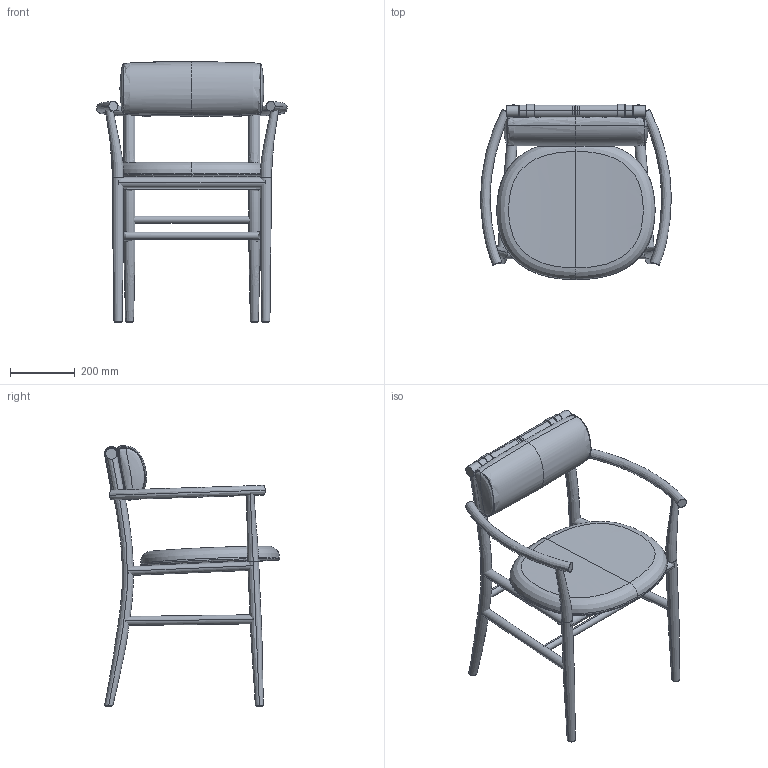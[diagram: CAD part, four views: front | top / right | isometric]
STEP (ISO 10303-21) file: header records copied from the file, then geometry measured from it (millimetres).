
FILE_DESCRIPTION(/* description */ (''),/* implementation_level */ '2;1');
FILE_NAME(/* name */ 'Nama Dining Chair Armrest',/* time_stamp */ '2025-08-27T09:54:53+02:00',/* author */ (''),/* organization */ (''),/* preprocessor_version */ 'ST-DEVELOPER v16.5',/* originating_system */ 'Rhino 7.38',/* authorisation */ '');
FILE_SCHEMA (('CONFIG_CONTROL_DESIGN'));
Length unit declared in the file: millimetre
Products named in the file (1): Document
Bounding box: 589.23 x 541.53 x 805.68 mm (x, y, z)
Volume: 15422526.2 mm3; surface area: 1893461.9 mm2
Topology: 23 solids, 40 shells, 513 faces, 1084 edges, 625 vertices
Faces by surface type: bspline 513
Entity records: 44047 total; most frequent: CARTESIAN_POINT 30826, B_SPLINE_CURVE_WITH_KNOTS 2419, ORIENTED_EDGE 2050, PCURVE 2050, DEFINITIONAL_REPRESENTATION 2050, SURFACE_CURVE 1073, EDGE_CURVE 1073, VERTEX_POINT 616
